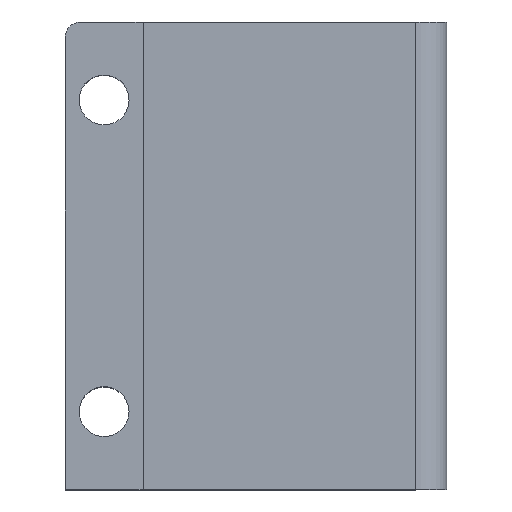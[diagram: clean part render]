
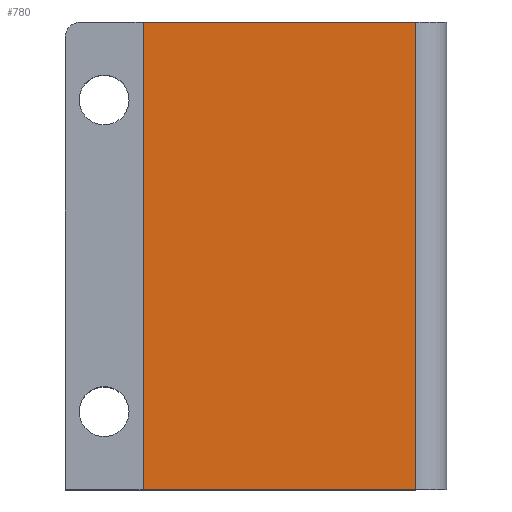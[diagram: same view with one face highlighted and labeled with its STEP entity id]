
A CAD part, top view. The second image highlights one B-rep face of the part: STEP entity #780.
In plain terms, the highlighted planar face has unit normal (0, 0, 1).
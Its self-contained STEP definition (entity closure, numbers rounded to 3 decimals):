
#28=PLANE('',#842);
#49=FACE_OUTER_BOUND('',#93,.T.);
#93=EDGE_LOOP('',(#543,#544,#545,#546));
#149=LINE('',#1194,#221);
#150=LINE('',#1200,#222);
#151=LINE('',#1204,#223);
#152=LINE('',#1205,#224);
#221=VECTOR('',#941,10.);
#222=VECTOR('',#948,10.);
#223=VECTOR('',#953,10.);
#224=VECTOR('',#954,10.);
#337=VERTEX_POINT('',#1191);
#338=VERTEX_POINT('',#1193);
#340=VERTEX_POINT('',#1199);
#341=VERTEX_POINT('',#1203);
#417=EDGE_CURVE('',#338,#337,#149,.T.);
#420=EDGE_CURVE('',#338,#340,#150,.T.);
#422=EDGE_CURVE('',#337,#341,#151,.F.);
#423=EDGE_CURVE('',#341,#340,#152,.F.);
#543=ORIENTED_EDGE('',*,*,#420,.F.);
#544=ORIENTED_EDGE('',*,*,#417,.T.);
#545=ORIENTED_EDGE('',*,*,#422,.T.);
#546=ORIENTED_EDGE('',*,*,#423,.T.);
#780=ADVANCED_FACE('',(#49),#28,.T.);
#842=AXIS2_PLACEMENT_3D('',#1202,#951,#952);
#941=DIRECTION('',(-1.,0.,0.));
#948=DIRECTION('',(0.,-1.,0.));
#951=DIRECTION('center_axis',(0.,0.,1.));
#952=DIRECTION('ref_axis',(1.,0.,0.));
#953=DIRECTION('',(0.,1.,0.));
#954=DIRECTION('',(-1.,0.,0.));
#1191=CARTESIAN_POINT('',(-8.7,30.,10.5));
#1193=CARTESIAN_POINT('',(8.8,30.,10.5));
#1194=CARTESIAN_POINT('',(-3.8,30.,10.5));
#1199=CARTESIAN_POINT('',(8.8,0.,10.5));
#1200=CARTESIAN_POINT('',(8.8,0.,10.5));
#1202=CARTESIAN_POINT('Origin',(-6.,0.,10.5));
#1203=CARTESIAN_POINT('',(-8.7,0.,10.5));
#1204=CARTESIAN_POINT('',(-8.7,0.,10.5));
#1205=CARTESIAN_POINT('',(-3.8,0.,10.5));
